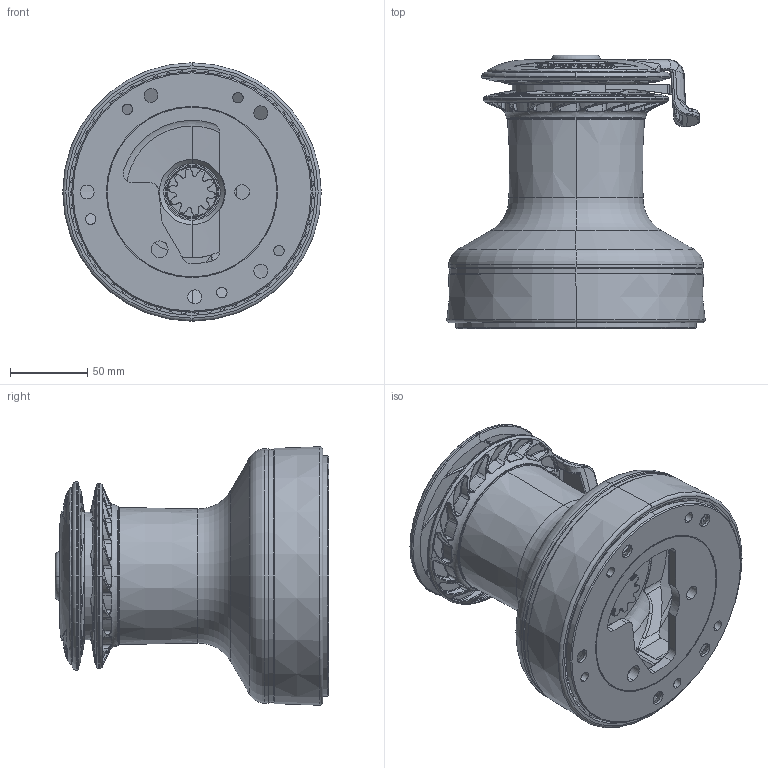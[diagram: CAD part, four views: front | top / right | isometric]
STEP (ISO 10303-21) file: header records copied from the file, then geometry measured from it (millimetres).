
FILE_DESCRIPTION((''),'2;1');
FILE_NAME('X_OEM_45_01_SW0001','2010-02-01T',('RFields'),(''),'PRO/ENGINEER BY PARAMETRIC TECHNOLOGY CORPORATION, 2007030','PRO/ENGINEER BY PARAMETRIC TECHNOLOGY CORPORATION, 2007030','');
FILE_SCHEMA(('CONFIG_CONTROL_DESIGN'));
Products named in the file (1): X_OEM_45_01_SW0001
Bounding box: 167.56 x 177.47 x 167.56 mm (x, y, z)
Volume: 1080518.6 mm3; surface area: 346649.7 mm2
Topology: 2 solids, 4 shells, 4551 faces, 12246 edges, 7813 vertices
Faces by surface type: plane 1609, extrusion 654, cylinder 647, bspline 601, cone 559, torus 476, sphere 5
Entity records: 177671 total; most frequent: CARTESIAN_POINT 73018, ORIENTED_EDGE 24482, DIRECTION 17854, EDGE_CURVE 12241, VERTEX_POINT 7813, AXIS2_PLACEMENT_3D 6577, B_SPLINE_CURVE_WITH_KNOTS 5568, EDGE_LOOP 4748
